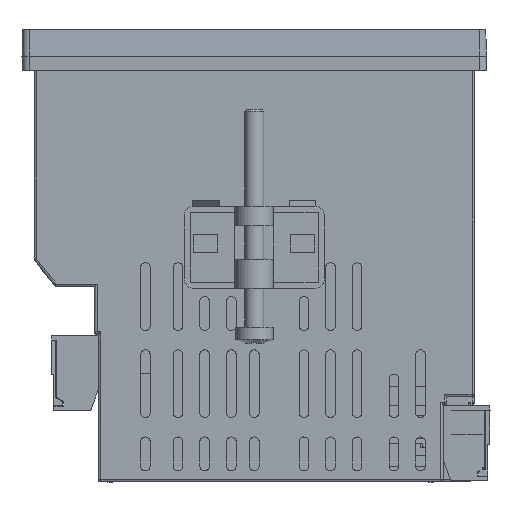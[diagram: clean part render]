
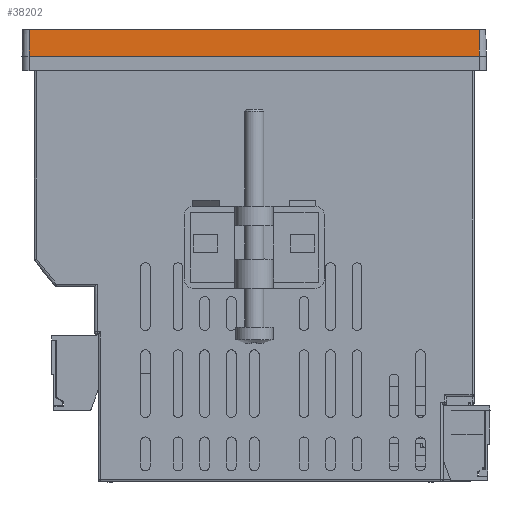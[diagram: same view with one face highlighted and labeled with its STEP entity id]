
A CAD part, left-side view. The second image highlights one B-rep face of the part: STEP entity #38202.
In plain terms, the highlighted planar face has unit normal (-0.999, 0, 0.035).
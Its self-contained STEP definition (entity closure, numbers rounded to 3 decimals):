
#4220 = LINE ( 'NONE', #79477, #22155 ) ;
#5860 = EDGE_CURVE ( 'NONE', #25622, #83942, #8607, .T. ) ;
#7488 = FACE_OUTER_BOUND ( 'NONE', #76660, .T. ) ;
#8607 = LINE ( 'NONE', #63728, #46812 ) ;
#11764 = DIRECTION ( 'NONE',  ( -0.035, 0., -0.999 ) ) ;
#13845 = VERTEX_POINT ( 'NONE', #42027 ) ;
#18688 = ORIENTED_EDGE ( 'NONE', *, *, #19024, .T. ) ;
#19024 = EDGE_CURVE ( 'NONE', #25622, #66883, #86322, .T. ) ;
#22155 = VECTOR ( 'NONE', #94800, 1000. ) ;
#25622 = VERTEX_POINT ( 'NONE', #83656 ) ;
#31448 = AXIS2_PLACEMENT_3D ( 'NONE', #90148, #44449, #97898 ) ;
#31556 = VECTOR ( 'NONE', #46582, 1000. ) ;
#38202 = ADVANCED_FACE ( 'NONE', ( #7488 ), #44125, .T. ) ;
#42027 = CARTESIAN_POINT ( 'NONE',  ( -64.747, -43.517, 104. ) ) ;
#44125 = PLANE ( 'NONE',  #31448 ) ;
#44449 = DIRECTION ( 'NONE',  ( -0.999, 0., 0.035 ) ) ;
#46582 = DIRECTION ( 'NONE',  ( 0.035, 0., 0.999 ) ) ;
#46812 = VECTOR ( 'NONE', #87014, 1000. ) ;
#49549 = ORIENTED_EDGE ( 'NONE', *, *, #68860, .T. ) ;
#57446 = CARTESIAN_POINT ( 'NONE',  ( -64.747, 49.483, 104. ) ) ;
#63013 = EDGE_CURVE ( 'NONE', #66883, #13845, #4220, .T. ) ;
#63695 = CARTESIAN_POINT ( 'NONE',  ( -64.555, -43.517, 109.5 ) ) ;
#63728 = CARTESIAN_POINT ( 'NONE',  ( -64.555, -45.017, 109.5 ) ) ;
#66062 = VECTOR ( 'NONE', #11764, 1000. ) ;
#66883 = VERTEX_POINT ( 'NONE', #94814 ) ;
#68860 = EDGE_CURVE ( 'NONE', #13845, #83942, #90016, .T. ) ;
#76660 = EDGE_LOOP ( 'NONE', ( #81727, #18688, #77119, #49549 ) ) ;
#77119 = ORIENTED_EDGE ( 'NONE', *, *, #63013, .T. ) ;
#79477 = CARTESIAN_POINT ( 'NONE',  ( -64.747, -45.017, 104. ) ) ;
#81727 = ORIENTED_EDGE ( 'NONE', *, *, #5860, .F. ) ;
#83656 = CARTESIAN_POINT ( 'NONE',  ( -64.555, 49.483, 109.5 ) ) ;
#83942 = VERTEX_POINT ( 'NONE', #63695 ) ;
#84622 = CARTESIAN_POINT ( 'NONE',  ( -64.747, -43.517, 104. ) ) ;
#86322 = LINE ( 'NONE', #57446, #66062 ) ;
#87014 = DIRECTION ( 'NONE',  ( 0., -1., 0. ) ) ;
#90016 = LINE ( 'NONE', #84622, #31556 ) ;
#90148 = CARTESIAN_POINT ( 'NONE',  ( -64.747, -45.017, 104. ) ) ;
#94800 = DIRECTION ( 'NONE',  ( 0., -1., 0. ) ) ;
#94814 = CARTESIAN_POINT ( 'NONE',  ( -64.747, 49.483, 104. ) ) ;
#97898 = DIRECTION ( 'NONE',  ( 0.035, 0., 0.999 ) ) ;
